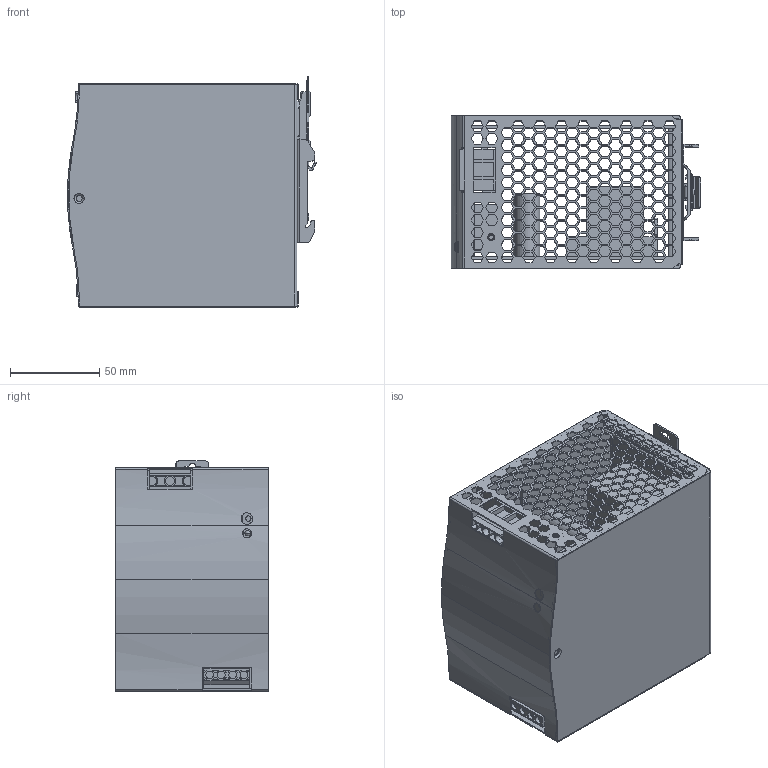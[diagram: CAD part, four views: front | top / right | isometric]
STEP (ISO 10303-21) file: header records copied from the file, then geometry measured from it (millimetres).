
FILE_DESCRIPTION (( 'STEP AP214' ), '1' );
FILE_NAME ('PSU0xx-0480S1X2AAD1A.STEP', '2024-06-27T07:04:10', ( '' ), ( '' ), 'SwSTEP 2.0', 'SolidWorks 2023', '' );
FILE_SCHEMA (( 'AUTOMOTIVE_DESIGN' ));
Length unit declared in the file: millimetre
Products named in the file (25): PSU0xx-0480S1X2AAD1A (4); PSU0xx-0480S1X2AAD1A (9); PSU0xx-0480S1X2AAD1A (19); PSU0xx-0480S1X2AAD1A (18); PSU0xx-0480S1X2AAD1A (7); PSU0xx-0480S1X2AAD1A (11); PSU0xx-0480S1X2AAD1A (10); PSU0xx-0480S1X2AAD1A; PSU0xx-0480S1X2AAD1A (16); PSU0xx-0480S1X2AAD1A (23); PSU0xx-0480S1X2AAD1A (5); PSU0xx-0480S1X2AAD1A (20); PSU0xx-0480S1X2AAD1A (24); PSU0xx-0480S1X2AAD1A (22); PSU0xx-0480S1X2AAD1A (6); PSU0xx-0480S1X2AAD1A (8); PSU0xx-0480S1X2AAD1A (13); PSU0xx-0480S1X2AAD1A (1); PSU0xx-0480S1X2AAD1A (21); PSU0xx-0480S1X2AAD1A (15); PSU0xx-0480S1X2AAD1A (2); PSU0xx-0480S1X2AAD1A (17); PSU0xx-0480S1X2AAD1A (12); PSU0xx-0480S1X2AAD1A (3)
Assembly tree (26 placements, depth 6):
  PSU0xx-0480S1X2AAD1A
    PSU0xx-0480S1X2AAD1A (1)
      PSU0xx-0480S1X2AAD1A (2)
        PSU0xx-0480S1X2AAD1A (6)
          PSU0xx-0480S1X2AAD1A (8)
            PSU0xx-0480S1X2AAD1A (9)  x2
            PSU0xx-0480S1X2AAD1A (10)
          PSU0xx-0480S1X2AAD1A (11)
        PSU0xx-0480S1X2AAD1A (12)
      PSU0xx-0480S1X2AAD1A (3)
        PSU0xx-0480S1X2AAD1A (13)
        PSU0xx-0480S1X2AAD1A (4)
        PSU0xx-0480S1X2AAD1A (15)
      PSU0xx-0480S1X2AAD1A (4)
        PSU0xx-0480S1X2AAD1A (7)
          PSU0xx-0480S1X2AAD1A (16)
        PSU0xx-0480S1X2AAD1A (17)
      PSU0xx-0480S1X2AAD1A (5)
        PSU0xx-0480S1X2AAD1A (18)
        PSU0xx-0480S1X2AAD1A (19)
      PSU0xx-0480S1X2AAD1A (20)
      PSU0xx-0480S1X2AAD1A (21)  x2
      PSU0xx-0480S1X2AAD1A (22)
      PSU0xx-0480S1X2AAD1A (23)
      PSU0xx-0480S1X2AAD1A (24)
Bounding box: 139.51 x 85.5 x 128.91 mm (x, y, z)
Volume: 262422.3 mm3; surface area: 260475.2 mm2
Topology: 18 solids, 18 shells, 3301 faces, 9632 edges, 6393 vertices
Faces by surface type: plane 2810, cylinder 395, cone 86, torus 8, bspline 2
Entity records: 112774 total; most frequent: CARTESIAN_POINT 22626, ORIENTED_EDGE 19102, DIRECTION 16954, EDGE_CURVE 9551, LINE 8610, VECTOR 8610, VERTEX_POINT 6339, EDGE_LOOP 4180
